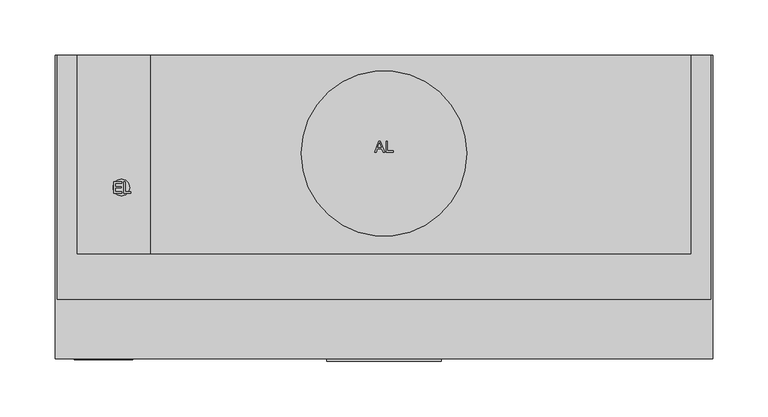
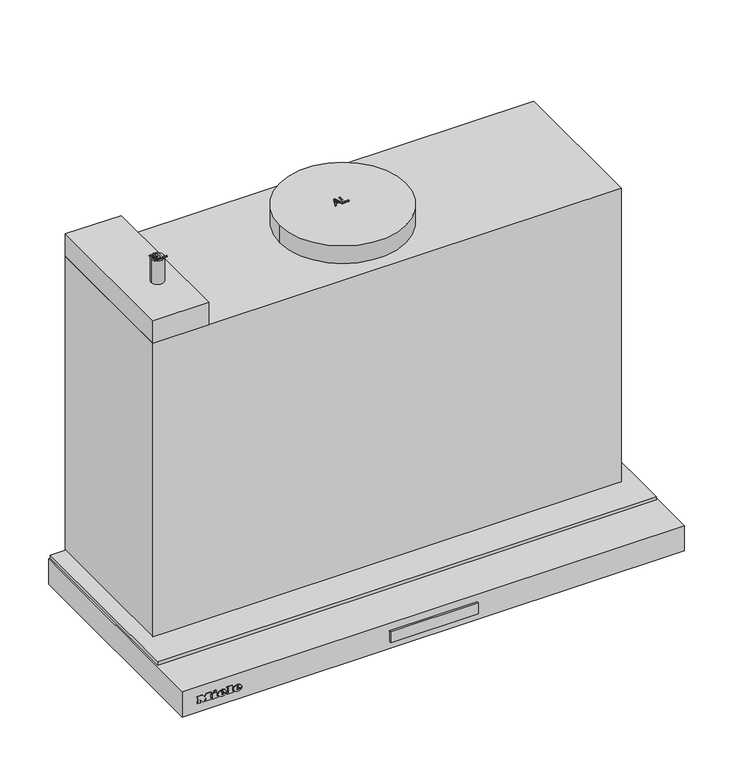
"""IFC4 building model written with IfcOpenShell, lengths in millimetres: proxy geometry, 12400940_D_DAS2622_EDST : 28S2622S_D_12400940_DAS2622_EDST."""

from ifc_helpers import new_model, si_unit, point, frame, frame_2d, origin, origin_with_axes, place, context, project, spatial, polyline, circle_curve, ellipse_curve, trimmed, segment, composite_curve, outline, extrude, faceted_brep, source, transform, mapped, element, save
from ifc_brep_helpers import plane_surface, cylinder_surface, revolved_surface, extruded_surface, advanced_brep


def specialty_equipment_f6f74302(model_context):
    return source(origin(), model_context, "Body", "SolidModel", [
        extrude(outline(polyline([(52.0, -275.0), (52.0, -277.3978707), (-52.0, -277.3978707), (-52.0, -275.0), (52.0, -275.0)])), frame((0.0, 0.0, -23.0389651), z_axis=(0.0, 0.0, 1.0), x_axis=(1.0, 0.0, 0.0)), (0.0, 0.0, 1.0), 13.3389155),
        advanced_brep(
        [(-233.4590019, -276.0, -18.7681017), (-233.4590019, -276.0, -17.8894017), (-227.6387019, -276.0, -17.8894017), (-237.7655019, -276.0, -17.8894017), (-235.3730019, -276.0, -20.8300017), (-227.7866019, -276.0, -18.7681017), (-230.4140019, -276.0, -18.7681017), (-232.4846019, -276.0, -19.7425017), (-233.4590019, -276.0, -16.7758017), (-233.4590019, -276.0, -15.8275017), (-231.9713019, -276.0, -15.8275017), (-231.9713019, -276.0, -16.7758017), (-233.4590019, -275.0, -18.7681017), (-232.4846019, -275.0, -19.7425017), (-230.4140019, -275.0, -18.7681017), (-227.7866019, -275.0, -18.7681017), (-235.3730019, -275.0, -20.8300017), (-237.7655019, -275.0, -17.8894017), (-227.6387019, -275.0, -17.8894017), (-233.4590019, -275.0, -17.8894017), (-233.4590019, -275.0, -16.7758017), (-231.9713019, -275.0, -16.7758017), (-231.9713019, -275.0, -15.8275017), (-233.4590019, -275.0, -15.8275017)],
        [
            (0, 1),
            (1, 2),
            (2, 3, ellipse_curve(frame((-232.7021019, -276.0, -17.8894017), z_axis=(0.0, -1.0, 0.0), x_axis=(-1.0, 0.0, 0.0)), 5.0634, 4.1847)),
            (3, 4, circle_curve(frame((-234.3985544, -276.0, -17.5936017), z_axis=(0.0, -1.0, 0.0), x_axis=(0.0, 0.0, -1.0)), 3.3799161)),
            (4, 5, circle_curve(frame((-232.8034638, -276.0, -15.2968017), z_axis=(0.0, -1.0, 0.0), x_axis=(0.0, 0.0, -1.0)), 6.1007236)),
            (5, 6),
            (6, 7, circle_curve(frame((-232.0593254, -276.0, -17.9590017), z_axis=(0.0, 1.0, 0.0), x_axis=(0.0, 0.0, -1.0)), 1.8335027)),
            (7, 0, circle_curve(frame((-232.4846019, -276.0, -18.7681017), z_axis=(0.0, 1.0, 0.0), x_axis=(0.0, 0.0, -1.0)), 0.9744)),
            (8, 9),
            (9, 10, circle_curve(frame((-232.7151519, -276.0, -15.8275017), z_axis=(0.0, 1.0, 0.0), x_axis=(0.0, 0.0, -1.0)), 0.74385)),
            (10, 11),
            (11, 8),
            (12, 13, circle_curve(frame((-232.4846019, -275.0, -18.7681017), z_axis=(0.0, -1.0, 0.0), x_axis=(0.0, 0.0, -1.0)), 0.9744)),
            (13, 14, circle_curve(frame((-232.0593254, -275.0, -17.9590017), z_axis=(0.0, -1.0, 0.0), x_axis=(0.0, 0.0, -1.0)), 1.8335027)),
            (14, 15),
            (15, 16, circle_curve(frame((-232.8034638, -275.0, -15.2968017), z_axis=(0.0, 1.0, 0.0), x_axis=(0.0, 0.0, -1.0)), 6.1007236)),
            (16, 17, circle_curve(frame((-234.3985544, -275.0, -17.5936017), z_axis=(0.0, 1.0, 0.0), x_axis=(0.0, 0.0, -1.0)), 3.3799161)),
            (17, 18, ellipse_curve(frame((-232.7021019, -275.0, -17.8894017), z_axis=(0.0, 1.0, 0.0), x_axis=(-1.0, 0.0, 0.0)), 5.0634, 4.1847)),
            (18, 19),
            (19, 12),
            (20, 21),
            (21, 22),
            (22, 23, circle_curve(frame((-232.7151519, -275.0, -15.8275017), z_axis=(0.0, -1.0, 0.0), x_axis=(0.0, 0.0, -1.0)), 0.74385)),
            (23, 20),
            (0, 12),
            (19, 1),
            (18, 2),
            (5, 15),
            (14, 6),
            (17, 3),
            (13, 7),
            (16, 4),
            (8, 20),
            (23, 9),
            (22, 10),
            (21, 11),
        ],
        [
            plane_surface(frame((-233.4590019, -276.0, -17.8894017), z_axis=(0.0, -1.0, 0.0), x_axis=(0.0, 0.0, 1.0))),
            plane_surface(frame((-233.4590019, -275.0, -17.8894017), z_axis=(0.0, 1.0, 0.0), x_axis=(0.0, 0.0, -1.0))),
            plane_surface(frame((-233.4590019, -276.0, -18.7681017), z_axis=(1.0, 0.0, 0.0), x_axis=(0.0, 1.0, 0.0))),
            plane_surface(frame((-233.4590019, -276.0, -17.8894017), z_axis=(0.0, 0.0, -1.0), x_axis=(0.0, 1.0, 0.0))),
            plane_surface(frame((-227.7866019, -276.0, -18.7681017), z_axis=(0.0, 0.0, 1.0), x_axis=(0.0, 1.0, 0.0))),
            extruded_surface(trimmed(ellipse_curve(frame((-232.7021019, -274.0, -17.8894017), z_axis=(0.0, -1.0, 0.0), x_axis=(-1.0, 0.0, 0.0)), 5.0634, 4.1847), [point((-227.6387019, -274.0, -17.8894017))], [point((-237.7655019, -274.0, -17.8894017))], True, "CARTESIAN"), (0.0, -1.0, 0.0), 1.0),
            revolved_surface(polyline([(-232.0593254, -275.0, -19.792504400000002), (-232.0593254, -276.0, -19.792504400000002)]), (-232.0593254, -275.0, -17.9590017), (0.0, 1.0, 0.0)),
            revolved_surface(polyline([(-232.4846019, -275.0, -19.7425017), (-232.4846019, -276.0, -19.7425017)]), (-232.4846019, -275.0, -18.7681017), (0.0, 1.0, 0.0)),
            cylinder_surface(frame((-234.3985544, -275.0, -17.5936017), z_axis=(0.0, -1.0, 0.0), x_axis=(0.0, 0.0, -1.0)), 3.3799161),
            cylinder_surface(frame((-232.8034638, -275.0, -15.2968017), z_axis=(0.0, -1.0, 0.0), x_axis=(0.0, 0.0, -1.0)), 6.1007236),
            plane_surface(frame((-233.4590019, -276.0, -16.7758017), z_axis=(1.0, 0.0, 0.0), x_axis=(0.0, 1.0, 0.0))),
            revolved_surface(polyline([(-232.7151519, -275.0, -16.571351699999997), (-232.7151519, -276.0, -16.571351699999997)]), (-232.7151519, -275.0, -15.8275017), (0.0, 1.0, 0.0)),
            plane_surface(frame((-231.9713019, -276.0, -15.8275017), z_axis=(-1.0, 0.0, 0.0), x_axis=(0.0, 1.0, 0.0))),
            plane_surface(frame((-231.9713019, -276.0, -16.7758017), z_axis=(0.0, 0.0, 1.0), x_axis=(0.0, 1.0, 0.0))),
        ],
        [
            (0, [[1, 2, 3, 4, 5, 6, 7, 8], [9, 10, 11, 12]]),
            (1, [[13, 14, 15, 16, 17, 18, 19, 20], [21, 22, 23, 24]]),
            (2, [[-1, 25, -20, 26]]),
            (3, [[-2, -26, -19, 27]]),
            (4, [[-6, 28, -15, 29]]),
            (5, [[-3, -27, -18, 30]]),
            (6, [[-7, -29, -14, 31]]),
            (7, [[-8, -31, -13, -25]]),
            (8, [[-4, -30, -17, 32]]),
            (9, [[-5, -32, -16, -28]]),
            (10, [[-9, 33, -24, 34]]),
            (11, [[-10, -34, -23, 35]]),
            (12, [[-11, -35, -22, 36]]),
            (13, [[-12, -36, -21, -33]]),
        ],
    ),
        advanced_brep(
        [(-251.6159019, -276.0, -18.7681017), (-251.6159019, -276.0, -17.8894017), (-245.7956019, -276.0, -17.8894017), (-255.9224019, -276.0, -17.8894017), (-253.5299019, -276.0, -20.8300017), (-245.9435019, -276.0, -18.7681017), (-248.5709019, -276.0, -18.7681017), (-250.6415019, -276.0, -19.7425017), (-251.6159019, -276.0, -16.7758017), (-251.6159019, -276.0, -15.8275017), (-250.1282019, -276.0, -15.8275017), (-250.1282019, -276.0, -16.7758017), (-251.6159019, -275.0, -18.7681017), (-250.6415019, -275.0, -19.7425017), (-248.5709019, -275.0, -18.7681017), (-245.9435019, -275.0, -18.7681017), (-253.5299019, -275.0, -20.8300017), (-255.9224019, -275.0, -17.8894017), (-245.7956019, -275.0, -17.8894017), (-251.6159019, -275.0, -17.8894017), (-251.6159019, -275.0, -16.7758017), (-250.1282019, -275.0, -16.7758017), (-250.1282019, -275.0, -15.8275017), (-251.6159019, -275.0, -15.8275017)],
        [
            (0, 1),
            (1, 2),
            (2, 3, ellipse_curve(frame((-250.8590019, -276.0, -17.8894017), z_axis=(0.0, -1.0, 0.0), x_axis=(-1.0, 0.0, 0.0)), 5.0634, 4.1847)),
            (3, 4, circle_curve(frame((-252.5554544, -276.0, -17.5936017), z_axis=(0.0, -1.0, 0.0), x_axis=(0.0, 0.0, -1.0)), 3.3799161)),
            (4, 5, circle_curve(frame((-250.9603638, -276.0, -15.2968017), z_axis=(0.0, -1.0, 0.0), x_axis=(0.0, 0.0, -1.0)), 6.1007236)),
            (5, 6),
            (6, 7, circle_curve(frame((-250.2162254, -276.0, -17.9590017), z_axis=(0.0, 1.0, 0.0), x_axis=(0.0, 0.0, -1.0)), 1.8335027)),
            (7, 0, circle_curve(frame((-250.6415019, -276.0, -18.7681017), z_axis=(0.0, 1.0, 0.0), x_axis=(0.0, 0.0, -1.0)), 0.9744)),
            (8, 9),
            (9, 10, circle_curve(frame((-250.8720519, -276.0, -15.8275017), z_axis=(0.0, 1.0, 0.0), x_axis=(0.0, 0.0, -1.0)), 0.74385)),
            (10, 11),
            (11, 8),
            (12, 13, circle_curve(frame((-250.6415019, -275.0, -18.7681017), z_axis=(0.0, -1.0, 0.0), x_axis=(0.0, 0.0, -1.0)), 0.9744)),
            (13, 14, circle_curve(frame((-250.2162254, -275.0, -17.9590017), z_axis=(0.0, -1.0, 0.0), x_axis=(0.0, 0.0, -1.0)), 1.8335027)),
            (14, 15),
            (15, 16, circle_curve(frame((-250.9603638, -275.0, -15.2968017), z_axis=(0.0, 1.0, 0.0), x_axis=(0.0, 0.0, -1.0)), 6.1007236)),
            (16, 17, circle_curve(frame((-252.5554544, -275.0, -17.5936017), z_axis=(0.0, 1.0, 0.0), x_axis=(0.0, 0.0, -1.0)), 3.3799161)),
            (17, 18, ellipse_curve(frame((-250.8590019, -275.0, -17.8894017), z_axis=(0.0, 1.0, 0.0), x_axis=(-1.0, 0.0, 0.0)), 5.0634, 4.1847)),
            (18, 19),
            (19, 12),
            (20, 21),
            (21, 22),
            (22, 23, circle_curve(frame((-250.8720519, -275.0, -15.8275017), z_axis=(0.0, -1.0, 0.0), x_axis=(0.0, 0.0, -1.0)), 0.74385)),
            (23, 20),
            (0, 12),
            (19, 1),
            (18, 2),
            (5, 15),
            (14, 6),
            (17, 3),
            (13, 7),
            (16, 4),
            (8, 20),
            (23, 9),
            (22, 10),
            (21, 11),
        ],
        [
            plane_surface(frame((-251.6159019, -276.0, -17.8894017), z_axis=(0.0, -1.0, 0.0), x_axis=(0.0, 0.0, 1.0))),
            plane_surface(frame((-251.6159019, -275.0, -17.8894017), z_axis=(0.0, 1.0, 0.0), x_axis=(0.0, 0.0, -1.0))),
            plane_surface(frame((-251.6159019, -276.0, -18.7681017), z_axis=(1.0, 0.0, 0.0), x_axis=(0.0, 1.0, 0.0))),
            plane_surface(frame((-251.6159019, -276.0, -17.8894017), z_axis=(0.0, 0.0, -1.0), x_axis=(0.0, 1.0, 0.0))),
            plane_surface(frame((-245.9435019, -276.0, -18.7681017), z_axis=(0.0, 0.0, 1.0), x_axis=(0.0, 1.0, 0.0))),
            extruded_surface(trimmed(ellipse_curve(frame((-250.8590019, -274.0, -17.8894017), z_axis=(0.0, -1.0, 0.0), x_axis=(-1.0, 0.0, 0.0)), 5.0634, 4.1847), [point((-245.7956019, -274.0, -17.8894017))], [point((-255.9224019, -274.0, -17.8894017))], True, "CARTESIAN"), (0.0, -1.0, 0.0), 1.0),
            revolved_surface(polyline([(-250.2162254, -275.0, -19.792504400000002), (-250.2162254, -276.0, -19.792504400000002)]), (-250.2162254, -275.0, -17.9590017), (0.0, 1.0, 0.0)),
            revolved_surface(polyline([(-250.6415019, -275.0, -19.7425017), (-250.6415019, -276.0, -19.7425017)]), (-250.6415019, -275.0, -18.7681017), (0.0, 1.0, 0.0)),
            cylinder_surface(frame((-252.5554544, -275.0, -17.5936017), z_axis=(0.0, -1.0, 0.0), x_axis=(0.0, 0.0, -1.0)), 3.3799161),
            cylinder_surface(frame((-250.9603638, -275.0, -15.2968017), z_axis=(0.0, -1.0, 0.0), x_axis=(0.0, 0.0, -1.0)), 6.1007236),
            plane_surface(frame((-251.6159019, -276.0, -16.7758017), z_axis=(1.0, 0.0, 0.0), x_axis=(0.0, 1.0, 0.0))),
            revolved_surface(polyline([(-250.8720519, -275.0, -16.571351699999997), (-250.8720519, -276.0, -16.571351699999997)]), (-250.8720519, -275.0, -15.8275017), (0.0, 1.0, 0.0)),
            plane_surface(frame((-250.1282019, -276.0, -15.8275017), z_axis=(-1.0, 0.0, 0.0), x_axis=(0.0, 1.0, 0.0))),
            plane_surface(frame((-250.1282019, -276.0, -16.7758017), z_axis=(0.0, 0.0, 1.0), x_axis=(0.0, 1.0, 0.0))),
        ],
        [
            (0, [[1, 2, 3, 4, 5, 6, 7, 8], [9, 10, 11, 12]]),
            (1, [[13, 14, 15, 16, 17, 18, 19, 20], [21, 22, 23, 24]]),
            (2, [[-1, 25, -20, 26]]),
            (3, [[-2, -26, -19, 27]]),
            (4, [[-6, 28, -15, 29]]),
            (5, [[-3, -27, -18, 30]]),
            (6, [[-7, -29, -14, 31]]),
            (7, [[-8, -31, -13, -25]]),
            (8, [[-4, -30, -17, 32]]),
            (9, [[-5, -32, -16, -28]]),
            (10, [[-9, 33, -24, 34]]),
            (11, [[-10, -34, -23, 35]]),
            (12, [[-11, -35, -22, 36]]),
            (13, [[-12, -36, -21, -33]]),
        ],
    ),
        extrude(outline(polyline([(-12.6433017, -261.1250019), (-14.0527017, -260.4638019), (-12.6781017, -257.5145019), (-11.2687017, -258.1670019), (-12.6433017, -261.1250019)])), frame((0.0, -276.0, 0.0), z_axis=(0.0, 1.0, 0.0), x_axis=(0.0, 0.0, 1.0)), (0.0, 0.0, 1.0), 1.0),
        extrude(outline(polyline([(-14.2441017, -263.2739019), (-15.8014017, -263.2739019), (-15.8014017, -262.2386019), (-19.3684017, -262.2386019), (-19.3684017, -263.2739019), (-20.8300017, -263.2739019), (-20.8300017, -256.4096019), (-19.3684017, -256.4096019), (-19.3684017, -257.4188019), (-14.2441017, -257.4188019), (-14.2441017, -263.2739019)])), frame((0.0, -276.0, 0.0), z_axis=(0.0, 1.0, 0.0), x_axis=(0.0, 0.0, 1.0)), (0.0, 0.0, 1.0), 1.0),
        extrude(outline(polyline([(-13.5481017, -245.3084019), (-13.5481017, -244.2644019), (-19.3684017, -244.2644019), (-19.3684017, -245.3084019), (-20.8300017, -245.3084019), (-20.8300017, -238.2527019), (-19.3684017, -238.2527019), (-19.3684017, -239.3228019), (-12.1300017, -239.3228019), (-12.1300017, -245.3084019), (-13.5481017, -245.3084019)])), frame((0.0, -276.0, 0.0), z_axis=(0.0, 1.0, 0.0), x_axis=(0.0, 0.0, 1.0)), (0.0, 0.0, 1.0), 1.0),
        extrude(outline(polyline([(-13.5481017, -280.6130019), (-13.5481017, -279.5603019), (-19.3684017, -279.5603019), (-19.3684017, -280.6130019), (-20.8300017, -280.6130019), (-20.8300017, -276.7850019), (-19.3684017, -276.7850019), (-19.3684017, -277.8290019), (-15.6719769, -277.8290019), (-20.8300017, -273.9401019), (-15.5772794, -270.0338019), (-19.3684017, -270.0338019), (-19.3684017, -271.1039019), (-20.8300017, -271.1039019), (-20.8300017, -264.1613019), (-19.3684017, -264.1613019), (-19.3684017, -265.2662019), (-13.5481017, -265.2662019), (-13.5481017, -264.1613019), (-12.1300017, -264.1613019), (-12.1300017, -269.4596019), (-15.3925017, -272.0000019), (-12.1300017, -274.5491019), (-12.1300017, -280.6130019), (-13.5481017, -280.6130019)])), frame((0.0, -276.0, 0.0), z_axis=(0.0, 1.0, 0.0), x_axis=(0.0, 0.0, 1.0)), (0.0, 0.0, 1.0), 1.0),
        extrude(outline(polyline([(120.0, -19.25), (120.0, -31.75), (-120.0, -31.75), (-120.0, -19.25), (120.0, -19.25)])), frame((0.0, 0.0, -23.0), z_axis=(0.0, 0.0, 1.0), x_axis=(1.0, 0.0, 0.0)), (0.0, 0.0, 1.0), 1.785426),
        extrude(outline(polyline([(296.0, 0.0), (296.0, -221.0), (-296.0, -221.0), (-296.0, 0.0), (296.0, 0.0)])), origin_with_axes(), (0.0, 0.0, 1.0), 4.0),
        extrude(outline(polyline([(-8.547125, -87.975609), (-4.5372113, -77.929978), (-3.4679009, -77.929978), (0.5420128, -87.975609), (-0.7848149, -87.975609), (-1.9350593, -84.8363493), (-6.0725055, -84.8363493), (-7.2202973, -87.975609), (-8.547125, -87.975609)]), holes=[polyline([(-5.6114267, -83.5806455), (-2.3936855, -83.5806455), (-3.2986752, -81.110931), (-4.0025561, -79.1856819), (-4.6279555, -80.8951069), (-5.6114267, -83.5806455)])]), frame((0.0, 0.0, 395.0), z_axis=(0.0, 0.0, 1.0), x_axis=(1.0, 0.0, 0.0)), (0.0, 0.0, 1.0), 1.0),
        extrude(outline(polyline([(1.8835558, -87.975609), (1.8835558, -77.929978), (3.1392597, -77.929978), (3.1392597, -86.7199052), (8.1620752, -86.7199052), (8.1620752, -87.975609), (1.8835558, -87.975609)])), frame((0.0, 0.0, 395.0), z_axis=(0.0, 0.0, 1.0), x_axis=(1.0, 0.0, 0.0)), (0.0, 0.0, 1.0), 1.0),
        faceted_brep([(298.0, 0.0, -32.0), (298.0, -275.0, -32.0), (-298.0, -275.0, -32.0), (-298.0, 0.0, -32.0), (-263.0, 0.0, -32.0), (-263.0, -242.0, -32.0), (263.0, -242.0, -32.0), (263.0, 0.0, -32.0), (298.0, 0.0, 0.0), (-298.0, 0.0, 0.0), (-298.0, -275.0, 0.0), (298.0, -275.0, 0.0), (263.0, 0.0, -24.0), (-263.0, 0.0, -24.0), (263.0, -242.0, -25.0), (-263.0, -242.0, -25.0), (-263.0, -52.0, -25.0), (263.0, -52.0, -25.0), (-263.0, -52.0, -24.0), (263.0, -52.0, -24.0), (126.0, -12.0, -24.0), (-126.0, -12.0, -24.0), (-126.0, -39.0, -24.0), (126.0, -39.0, -24.0), (126.0, -12.0, -21.214574), (126.0, -39.0, -21.214574), (-126.0, -39.0, -21.214574), (-126.0, -12.0, -21.214574)], [[[0, 1, 2, 3, 4, 5, 6, 7]], [[8, 9, 10, 11]], [[9, 8, 0, 7, 12, 13, 4, 3]], [[3, 2, 10, 9]], [[2, 1, 11, 10]], [[1, 0, 8, 11]], [[14, 15, 16, 17]], [[15, 5, 4, 13, 18, 16]], [[15, 14, 6, 5]], [[6, 14, 17, 19, 12, 7]], [[12, 19, 18, 13], [20, 21, 22, 23]], [[18, 19, 17, 16]], [[24, 25, 26, 27]], [[24, 27, 21, 20]], [[27, 26, 22, 21]], [[26, 25, 23, 22]], [[25, 24, 20, 23]]]),
        extrude(outline(polyline([(-278.0, -180.0), (-278.0, 0.0), (-212.0, 0.0), (-212.0, -180.0), (-278.0, -180.0)])), frame((0.0, 0.0, 373.0), z_axis=(0.0, 0.0, 1.0), x_axis=(1.0, 0.0, 0.0)), (0.0, 0.0, 1.0), 28.0),
        extrude(outline(composite_curve([segment(trimmed(circle_curve(frame_2d((0.0, -89.0)), 75.0), [point((-75.0, -89.0))], [point((75.0, -89.0))], False, "CARTESIAN"), True, "CONTINUOUS"), segment(trimmed(circle_curve(frame_2d((0.0, -89.0)), 75.0), [point((75.0, -89.0))], [point((-75.0, -89.0))], False, "CARTESIAN"), True, "CONTINUOUS")], self_intersect=False)), frame((0.0, 0.0, 373.0), z_axis=(0.0, 0.0, 1.0), x_axis=(1.0, 0.0, 0.0)), (0.0, 0.0, 1.0), 22.0),
        extrude(outline(polyline([(278.0, -180.0), (-278.0, -180.0), (-278.0, 0.0), (278.0, 0.0), (278.0, -180.0)])), frame((0.0, 0.0, 4.0), z_axis=(0.0, 0.0, 1.0), x_axis=(1.0, 0.0, 0.0)), (0.0, 0.0, 1.0), 369.0),
        extrude(outline(polyline([(-244.9012591, -124.9184735), (-244.9012591, -114.8728425), (-237.6809618, -114.8728425), (-237.6809618, -116.1285464), (-243.6455552, -116.1285464), (-243.6455552, -119.1108431), (-237.9948878, -119.1108431), (-237.9948878, -120.366547), (-243.6455552, -120.366547), (-243.6455552, -123.6627696), (-237.5239988, -123.6627696), (-237.5239988, -124.9184735), (-244.9012591, -124.9184735)])), frame((0.0, 0.0, 431.0), z_axis=(0.0, 0.0, 1.0), x_axis=(1.0, 0.0, 0.0)), (0.0, 0.0, 1.0), 1.0),
        extrude(outline(polyline([(-235.640443, -124.9184735), (-235.640443, -114.8728425), (-234.3847391, -114.8728425), (-234.3847391, -123.6627696), (-229.3619236, -123.6627696), (-229.3619236, -124.9184735), (-235.640443, -124.9184735)])), frame((0.0, 0.0, 431.0), z_axis=(0.0, 0.0, 1.0), x_axis=(1.0, 0.0, 0.0)), (0.0, 0.0, 1.0), 1.0),
        extrude(outline(composite_curve([segment(trimmed(circle_curve(frame_2d((-238.0, -120.0)), 7.5), [point((-230.5, -120.0))], [point((-245.5, -120.0))], False, "CARTESIAN"), True, "CONTINUOUS"), segment(trimmed(circle_curve(frame_2d((-238.0, -120.0)), 7.5), [point((-245.5, -120.0))], [point((-230.5, -120.0))], False, "CARTESIAN"), True, "CONTINUOUS")], self_intersect=False)), frame((0.0, 0.0, 401.0), z_axis=(0.0, 0.0, 1.0), x_axis=(1.0, 0.0, 0.0)), (0.0, 0.0, 1.0), 30.0),
        extrude(outline(polyline([(181.0813184, -268.0), (181.0813184, -246.0), (249.0, -246.0), (249.0, -268.0), (181.0813184, -268.0)])), frame((0.0, 0.0, -33.3019181), z_axis=(0.0, 0.0, 1.0), x_axis=(1.0, 0.0, 0.0)), (0.0, 0.0, 1.0), 1.3019181),
        extrude(outline(polyline([(-249.0, -268.0), (-249.0, -246.0), (-181.0, -246.0), (-181.0, -268.0), (-249.0, -268.0)])), frame((0.0, 0.0, -33.3019181), z_axis=(0.0, 0.0, 1.0), x_axis=(1.0, 0.0, 0.0)), (0.0, 0.0, 1.0), 1.3019181),
    ])


if __name__ == "__main__":
    model = new_model("IFC4")
    model_context = context("Model", 3, world=origin())
    ifc_project = project(units=[si_unit("LENGTHUNIT", "METRE", prefix="MILLI")], contexts=[model_context])
    site = spatial("IfcSite", under=ifc_project)
    building = spatial("IfcBuilding", under=site)
    placement = place(None, origin())
    specialty_equipment_shape = specialty_equipment_f6f74302(model_context)
    element("IfcBuildingElementProxy", 1, Name="12400940_D_DAS2622_EDST : 28S2622S_D_12400940_DAS2622_EDST", ObjectType="12400940_D_DAS2622_EDST : 28S2622S_D_12400940_DAS2622_EDST", at=placement, inside=building, context=model_context, shape_type="MappedRepresentation", body=[
        mapped(specialty_equipment_shape, transform((0.0, 0.0, 0.0), x_axis=(1.0, 0.0, 0.0), y_axis=(0.0, 1.0, 0.0), z_axis=(0.0, 0.0, 1.0))),
    ])
    save(model, "model.ifc")
